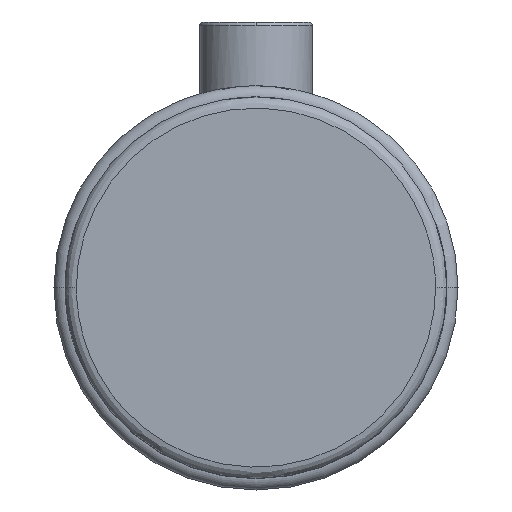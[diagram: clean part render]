
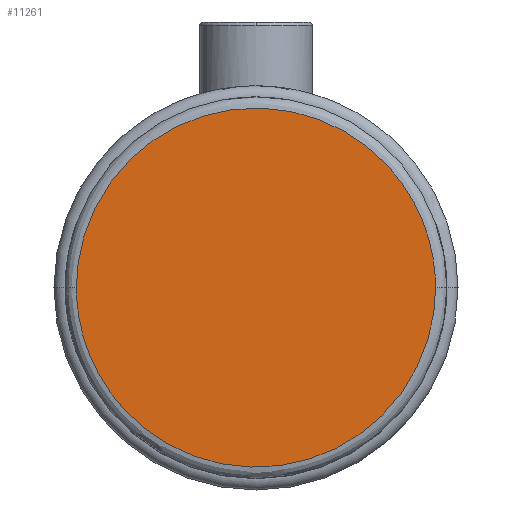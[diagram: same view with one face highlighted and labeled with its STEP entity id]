
A CAD part, top view. The second image highlights one B-rep face of the part: STEP entity #11261.
In plain terms, the highlighted planar face has unit normal (0, 0, 1).
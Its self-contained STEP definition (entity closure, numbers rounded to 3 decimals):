
#296 = CARTESIAN_POINT ( 'NONE',  ( -47.8, 0., 50. ) ) ;
#965 = PLANE ( 'NONE',  #1081 ) ;
#1081 = AXIS2_PLACEMENT_3D ( 'NONE', #12024, #1975, #9017 ) ;
#1975 = DIRECTION ( 'NONE',  ( 0., 0., 1. ) ) ;
#2737 =( BOUNDED_CURVE ( )  B_SPLINE_CURVE ( 3, ( #12156, #10200, #12234, #6181 ),
 .UNSPECIFIED., .F., .F. ) 
 B_SPLINE_CURVE_WITH_KNOTS ( ( 4, 4 ),
 ( 0.75, 1.25 ),
 .UNSPECIFIED. ) 
 CURVE ( )  GEOMETRIC_REPRESENTATION_ITEM ( )  RATIONAL_B_SPLINE_CURVE ( ( 1., 0.333, 0.333, 1. ) ) 
 REPRESENTATION_ITEM ( '' )  );
#3288 = VERTEX_POINT ( 'NONE', #3653 ) ;
#3653 = CARTESIAN_POINT ( 'NONE',  ( -47.8, 0., 50. ) ) ;
#3886 = EDGE_CURVE ( 'NONE', #3288, #5472, #2737, .T. ) ;
#4495 = ORIENTED_EDGE ( 'NONE', *, *, #11523, .F. ) ;
#5040 = ORIENTED_EDGE ( 'NONE', *, *, #3886, .F. ) ;
#5303 = CARTESIAN_POINT ( 'NONE',  ( 47.8, 0., 50. ) ) ;
#5472 = VERTEX_POINT ( 'NONE', #12948 ) ;
#6181 = CARTESIAN_POINT ( 'NONE',  ( 47.8, 0., 50. ) ) ;
#6327 = CARTESIAN_POINT ( 'NONE',  ( -47.8, -95.6, 50. ) ) ;
#9017 = DIRECTION ( 'NONE',  ( 0., -1., 0. ) ) ;
#9684 =( BOUNDED_CURVE ( )  B_SPLINE_CURVE ( 3, ( #5303, #12375, #6327, #296 ),
 .UNSPECIFIED., .F., .T. ) 
 B_SPLINE_CURVE_WITH_KNOTS ( ( 4, 4 ),
 ( 0.25, 0.75 ),
 .UNSPECIFIED. ) 
 CURVE ( )  GEOMETRIC_REPRESENTATION_ITEM ( )  RATIONAL_B_SPLINE_CURVE ( ( 1., 0.333, 0.333, 1. ) ) 
 REPRESENTATION_ITEM ( '' )  );
#10069 = EDGE_LOOP ( 'NONE', ( #4495, #5040 ) ) ;
#10200 = CARTESIAN_POINT ( 'NONE',  ( -47.8, 95.6, 50. ) ) ;
#11261 = ADVANCED_FACE ( 'NONE', ( #13100 ), #965, .T. ) ;
#11523 = EDGE_CURVE ( 'NONE', #5472, #3288, #9684, .T. ) ;
#12024 = CARTESIAN_POINT ( 'NONE',  ( 0., 25.4, 50. ) ) ;
#12156 = CARTESIAN_POINT ( 'NONE',  ( -47.8, 0., 50. ) ) ;
#12234 = CARTESIAN_POINT ( 'NONE',  ( 47.8, 95.6, 50. ) ) ;
#12375 = CARTESIAN_POINT ( 'NONE',  ( 47.8, -95.6, 50. ) ) ;
#12948 = CARTESIAN_POINT ( 'NONE',  ( 47.8, 0., 50. ) ) ;
#13100 = FACE_OUTER_BOUND ( 'NONE', #10069, .T. ) ;
